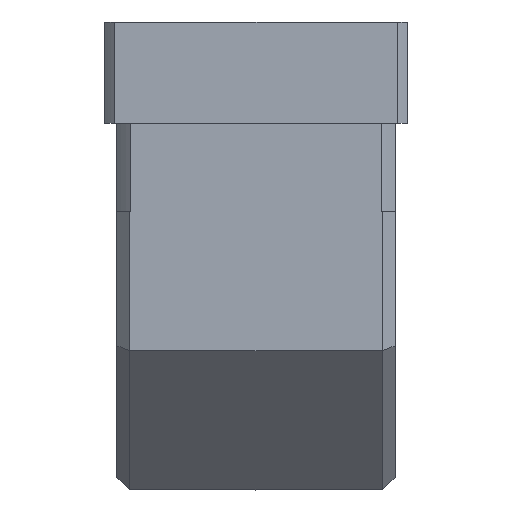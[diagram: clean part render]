
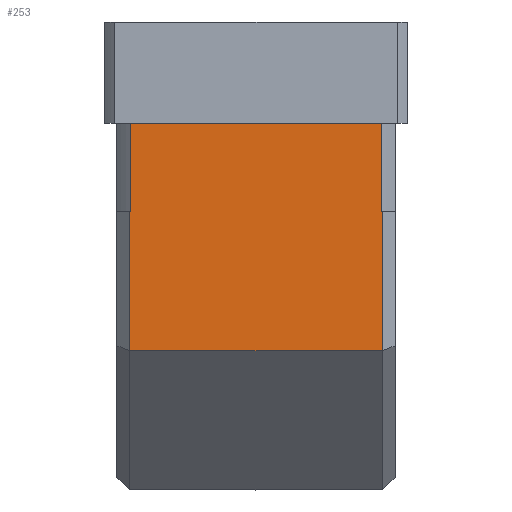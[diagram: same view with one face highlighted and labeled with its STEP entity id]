
A CAD part, left-side view. The second image highlights one B-rep face of the part: STEP entity #253.
In plain terms, the highlighted planar face has unit normal (-1, 0, 0).
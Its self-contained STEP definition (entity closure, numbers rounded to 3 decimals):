
#253=ADVANCED_FACE('',(#418),#366,.T.);
#366=PLANE('',#1993);
#418=FACE_OUTER_BOUND('',#496,.T.);
#496=EDGE_LOOP('',(#987,#988,#989,#990,#991,#992,#993,#994));
#668=LINE('',#2864,#805);
#692=LINE('',#2921,#829);
#693=LINE('',#2924,#830);
#694=LINE('',#2926,#831);
#695=LINE('',#2928,#832);
#696=LINE('',#2930,#833);
#697=LINE('',#2932,#834);
#698=LINE('',#2933,#835);
#805=VECTOR('',#2254,1.);
#829=VECTOR('',#2298,1.);
#830=VECTOR('',#2299,1.);
#831=VECTOR('',#2300,1.);
#832=VECTOR('',#2301,1.);
#833=VECTOR('',#2302,1.);
#834=VECTOR('',#2303,1.);
#835=VECTOR('',#2304,1.);
#987=ORIENTED_EDGE('',*,*,#1665,.F.);
#988=ORIENTED_EDGE('',*,*,#1666,.T.);
#989=ORIENTED_EDGE('',*,*,#1667,.T.);
#990=ORIENTED_EDGE('',*,*,#1668,.T.);
#991=ORIENTED_EDGE('',*,*,#1669,.F.);
#992=ORIENTED_EDGE('',*,*,#1670,.T.);
#993=ORIENTED_EDGE('',*,*,#1634,.T.);
#994=ORIENTED_EDGE('',*,*,#1671,.T.);
#1453=VERTEX_POINT('',#2863);
#1454=VERTEX_POINT('',#2865);
#1477=VERTEX_POINT('',#2922);
#1478=VERTEX_POINT('',#2923);
#1479=VERTEX_POINT('',#2925);
#1480=VERTEX_POINT('',#2927);
#1481=VERTEX_POINT('',#2929);
#1482=VERTEX_POINT('',#2931);
#1634=EDGE_CURVE('',#1454,#1453,#668,.T.);
#1665=EDGE_CURVE('',#1477,#1478,#692,.T.);
#1666=EDGE_CURVE('',#1477,#1479,#693,.T.);
#1667=EDGE_CURVE('',#1479,#1480,#694,.T.);
#1668=EDGE_CURVE('',#1480,#1481,#695,.T.);
#1669=EDGE_CURVE('',#1482,#1481,#696,.T.);
#1670=EDGE_CURVE('',#1482,#1454,#697,.T.);
#1671=EDGE_CURVE('',#1453,#1478,#698,.T.);
#1993=AXIS2_PLACEMENT_3D('',#2934,#2305,#2306);
#2254=DIRECTION('',(0.,1.,0.));
#2298=DIRECTION('',(0.,-1.,0.));
#2299=DIRECTION('',(0.,0.,-1.));
#2300=DIRECTION('',(0.,-1.,0.));
#2301=DIRECTION('',(0.,0.,1.));
#2302=DIRECTION('',(0.,-1.,0.));
#2303=DIRECTION('',(0.,0.,1.));
#2304=DIRECTION('',(0.,0.,-1.));
#2305=DIRECTION('',(-1.,0.,0.));
#2306=DIRECTION('',(0.,0.,1.));
#2863=CARTESIAN_POINT('',(-55.,49.508,145.));
#2864=CARTESIAN_POINT('',(-55.,-55.,145.));
#2865=CARTESIAN_POINT('',(-55.,-49.508,145.));
#2921=CARTESIAN_POINT('',(-55.,-55.,110.));
#2922=CARTESIAN_POINT('',(-55.,50.,110.));
#2923=CARTESIAN_POINT('',(-55.,49.508,110.));
#2924=CARTESIAN_POINT('',(-55.,50.,110.));
#2925=CARTESIAN_POINT('',(-55.,50.,55.));
#2926=CARTESIAN_POINT('',(-55.,-55.,55.));
#2927=CARTESIAN_POINT('',(-55.,-50.,55.));
#2928=CARTESIAN_POINT('',(-55.,-50.,110.));
#2929=CARTESIAN_POINT('',(-55.,-50.,110.));
#2930=CARTESIAN_POINT('',(-55.,-55.,110.));
#2931=CARTESIAN_POINT('',(-55.,-49.508,110.));
#2932=CARTESIAN_POINT('',(-55.,-49.508,110.));
#2933=CARTESIAN_POINT('',(-55.,49.508,110.));
#2934=CARTESIAN_POINT('',(-55.,-55.,110.));
